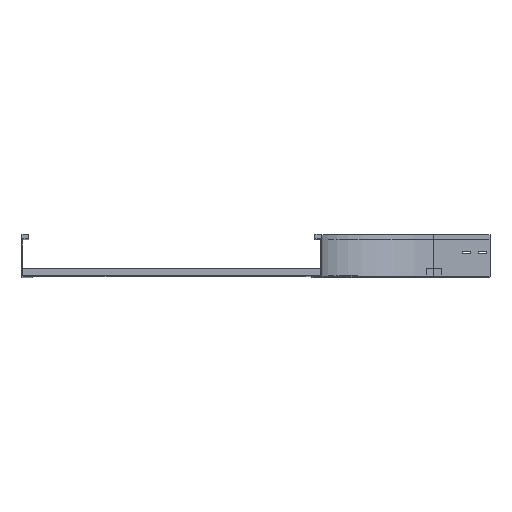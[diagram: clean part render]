
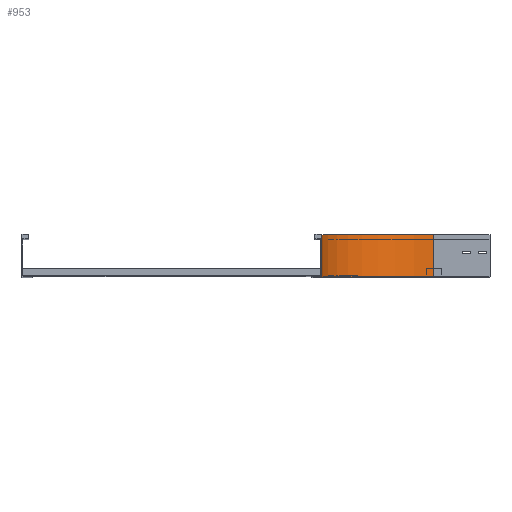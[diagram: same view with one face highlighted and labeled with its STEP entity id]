
A CAD part, top view. The second image highlights one B-rep face of the part: STEP entity #953.
In plain terms, the highlighted cylindrical face has radius 300 mm (diameter 600 mm), a partial arc.
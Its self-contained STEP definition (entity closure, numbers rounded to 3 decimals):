
#103 = FACE_OUTER_BOUND ( 'NONE', #703, .T. ) ;
#131 = CARTESIAN_POINT ( 'NONE',  ( 0., 0., -150. ) ) ;
#426 = CARTESIAN_POINT ( 'NONE',  ( 300., 0., -450. ) ) ;
#447 = CARTESIAN_POINT ( 'NONE',  ( 300., 112.5, -450. ) ) ;
#587 = DIRECTION ( 'NONE',  ( -1., 0., 0. ) ) ;
#703 = EDGE_LOOP ( 'NONE', ( #2690, #1584, #3811, #3099 ) ) ;
#779 = EDGE_CURVE ( 'NONE', #1401, #911, #1134, .T. ) ;
#836 = CARTESIAN_POINT ( 'NONE',  ( 0., 112.5, -150. ) ) ;
#882 = AXIS2_PLACEMENT_3D ( 'NONE', #2982, #3258, #587 ) ;
#894 = CARTESIAN_POINT ( 'NONE',  ( 300., 0., -150. ) ) ;
#911 = VERTEX_POINT ( 'NONE', #447 ) ;
#934 = VECTOR ( 'NONE', #2619, 1000. ) ;
#953 = ADVANCED_FACE ( 'NONE', ( #103 ), #1300, .F. ) ;
#1042 = EDGE_CURVE ( 'NONE', #3169, #911, #3249, .T. ) ;
#1134 = CIRCLE ( 'NONE', #882, 300. ) ;
#1300 = CYLINDRICAL_SURFACE ( 'NONE', #1322, 300. ) ;
#1322 = AXIS2_PLACEMENT_3D ( 'NONE', #2639, #2679, #2661 ) ;
#1401 = VERTEX_POINT ( 'NONE', #836 ) ;
#1584 = ORIENTED_EDGE ( 'NONE', *, *, #3048, .F. ) ;
#2360 = VERTEX_POINT ( 'NONE', #131 ) ;
#2363 = DIRECTION ( 'NONE',  ( 0., -1., 0. ) ) ;
#2410 = VECTOR ( 'NONE', #2430, 1000. ) ;
#2430 = DIRECTION ( 'NONE',  ( 0., 1., 0. ) ) ;
#2619 = DIRECTION ( 'NONE',  ( 0., 1., 0. ) ) ;
#2639 = CARTESIAN_POINT ( 'NONE',  ( 300., 0., -150. ) ) ;
#2660 = EDGE_CURVE ( 'NONE', #2360, #3169, #3373, .T. ) ;
#2661 = DIRECTION ( 'NONE',  ( 0., 0., -1. ) ) ;
#2677 = DIRECTION ( 'NONE',  ( -1., 0., 0. ) ) ;
#2679 = DIRECTION ( 'NONE',  ( 0., -1., 0. ) ) ;
#2685 = CARTESIAN_POINT ( 'NONE',  ( 0., 0., -150. ) ) ;
#2686 = AXIS2_PLACEMENT_3D ( 'NONE', #894, #2363, #2677 ) ;
#2690 = ORIENTED_EDGE ( 'NONE', *, *, #779, .F. ) ;
#2727 = LINE ( 'NONE', #2685, #2410 ) ;
#2982 = CARTESIAN_POINT ( 'NONE',  ( 300., 112.5, -150. ) ) ;
#3048 = EDGE_CURVE ( 'NONE', #2360, #1401, #2727, .T. ) ;
#3099 = ORIENTED_EDGE ( 'NONE', *, *, #1042, .T. ) ;
#3169 = VERTEX_POINT ( 'NONE', #426 ) ;
#3249 = LINE ( 'NONE', #3839, #934 ) ;
#3258 = DIRECTION ( 'NONE',  ( 0., -1., 0. ) ) ;
#3373 = CIRCLE ( 'NONE', #2686, 300. ) ;
#3811 = ORIENTED_EDGE ( 'NONE', *, *, #2660, .T. ) ;
#3839 = CARTESIAN_POINT ( 'NONE',  ( 300., 0., -450. ) ) ;
